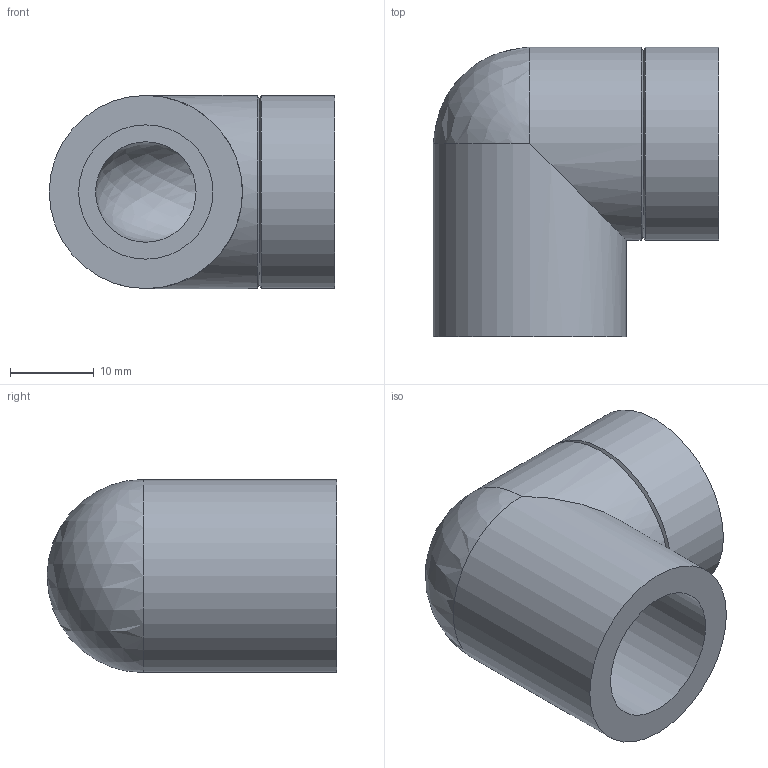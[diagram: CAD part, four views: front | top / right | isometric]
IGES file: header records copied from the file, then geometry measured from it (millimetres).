
Global section: file name: 057502016003.ipt; native system: Autodesk Inventor 2015; preprocessor: unknown; author: KIM; date: 20171207.165857; units: millimetre
Bounding box: 34 x 34.5 x 23 mm (x, y, z)
Volume: 11645.3 mm3; surface area: 5712.2 mm2
Topology: 1 solids, 1 shells, 15 faces, 32 edges, 19 vertices
Faces by surface type: revolution 5, plane 4, cylinder 3, cone 2, sphere 1
Full cylindrical faces by diameter (mm): 23 x3
